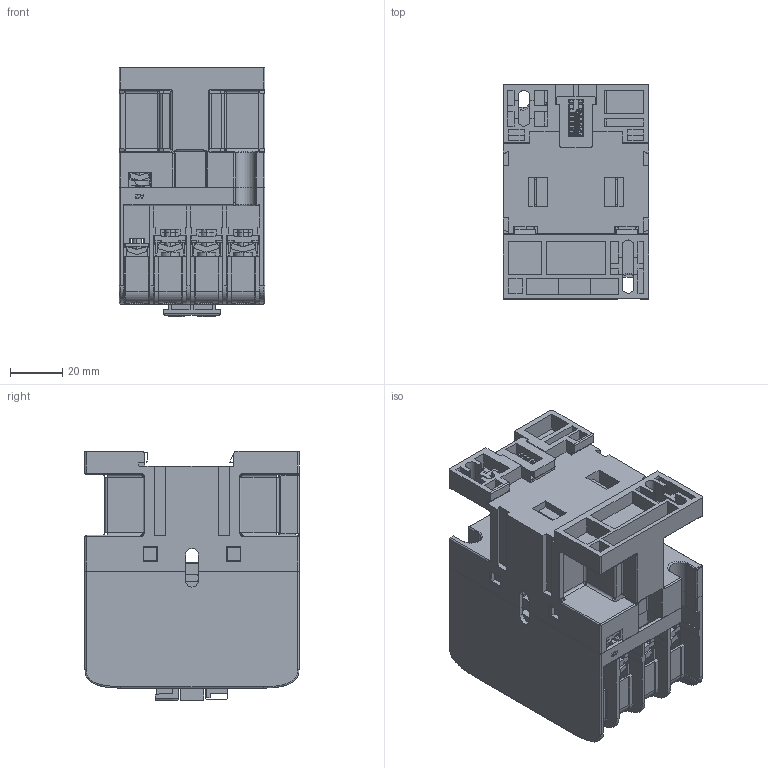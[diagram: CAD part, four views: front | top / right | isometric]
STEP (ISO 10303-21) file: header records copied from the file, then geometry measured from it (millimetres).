
FILE_DESCRIPTION((''),'2;1');
FILE_NAME('2TZD_400_1053_SW0002','2022-04-09T',('wangchen1'),(''),'PRO/ENGINEER BY PARAMETRIC TECHNOLOGY CORPORATION, 2017170','PRO/ENGINEER BY PARAMETRIC TECHNOLOGY CORPORATION, 2017170','');
FILE_SCHEMA(('CONFIG_CONTROL_DESIGN'));
Products named in the file (1): 2TZD_400_1053_SW0002
Bounding box: 56 x 82.2 x 95.7 mm (x, y, z)
Surface area: 127590.1 mm2 (no closed solid volume)
Topology: 0 solids, 177 shells, 2344 faces, 11813 edges, 9138 vertices
Faces by surface type: plane 1879, cylinder 398, sphere 26, bspline 18, torus 13, cone 10
Entity records: 143215 total; most frequent: CARTESIAN_POINT 39451, DIRECTION 17096, ORIENTED_EDGE 16978, EDGE_CURVE 11809, VECTOR 9612, LINE 9612, VERTEX_POINT 9138, AXIS2_PLACEMENT_3D 3742
